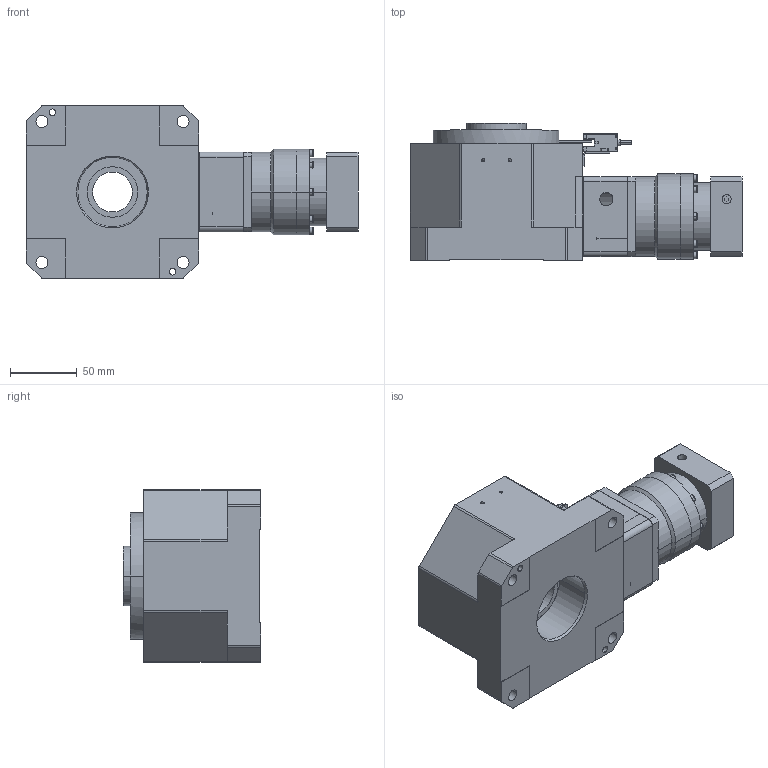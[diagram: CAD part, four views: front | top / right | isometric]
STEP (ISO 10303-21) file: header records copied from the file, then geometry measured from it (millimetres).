
FILE_DESCRIPTION((''),'2;1');
FILE_NAME('ZCM130_ASM','2020-12-25T16:38:51',('Administrator'),(''),'CREO PARAMETRIC BY PTC INC, 2017260','CREO PARAMETRIC BY PTC INC, 2017260','');
FILE_SCHEMA(('CONFIG_CONTROL_DESIGN','SHAPE_APPEARANCE_LAYERS_GROUPS'));
Length unit declared in the file: millimetre
Products named in the file (18): BEARING-SEAT_ZCM130; WASHER_ZCM130; HU_GEAR_ZCM130_ASM; LOOP_ZCM130; _2497_10; _10; _4398_10; _100; ST-303_1_2_ASM; HOLDER_ZCH150; ROCKER_ZCM130; SENSOR_ZCM130_ASM; _-2850000; __1000; _-10692000; VRB060-L1_14-32-500001_ASM; BASE-SOLID_ZCM130; ZCM130_ASM
Assembly tree (17 placements, depth 4):
  ZCM130_ASM
    HU_GEAR_ZCM130_ASM
      BEARING-SEAT_ZCM130
      WASHER_ZCM130
    LOOP_ZCM130
    SENSOR_ZCM130_ASM
      ST-303_1_2_ASM
        _2497_10
        _10
        _4398_10
        _100
      HOLDER_ZCH150
      ROCKER_ZCM130
    VRB060-L1_14-32-500001_ASM
      _-2850000
      __1000
      _-10692000
    BASE-SOLID_ZCM130
Bounding box: 249.5 x 103 x 130 mm (x, y, z)
Volume: 1507966.3 mm3; surface area: 189974.8 mm2
Topology: 13 solids, 13 shells, 963 faces, 2454 edges, 1545 vertices
Faces by surface type: plane 459, cylinder 398, cone 74, torus 24, sphere 8
Entity records: 33940 total; most frequent: CARTESIAN_POINT 5407, DIRECTION 5203, ORIENTED_EDGE 4768, EDGE_CURVE 2384, AXIS2_PLACEMENT_3D 1864, VERTEX_POINT 1545, VECTOR 1475, LINE 1475
